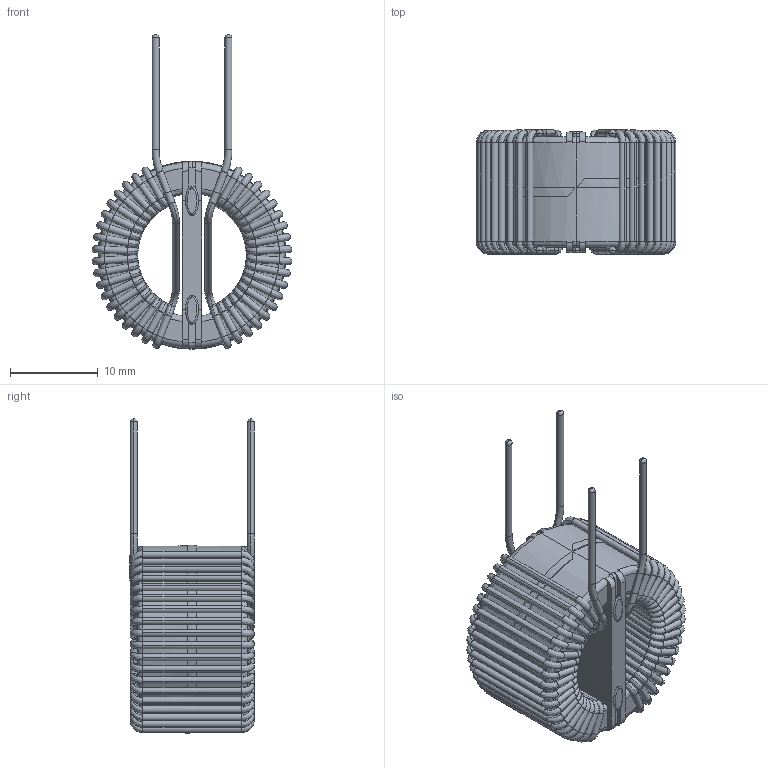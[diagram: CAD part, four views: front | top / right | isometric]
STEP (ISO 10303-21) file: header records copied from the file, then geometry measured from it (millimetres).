
FILE_DESCRIPTION (( 'STEP AP203' ), '1' );
FILE_NAME ('GN-V-502U-4A.STEP', '2020-08-03T12:46:24', ( 'Windows User' ), ( '' ), 'SwSTEP 2.0', 'SolidWorks 2015', '' );
FILE_SCHEMA (( 'CONFIG_CONTROL_DESIGN' ));
Length unit declared in the file: inch
Products named in the file (4): GN-V-502U-4A - FRAME; GN-V-502U-4A - CORE; GN-V-502U-4A; GN-V-502U-4A - COIL
Assembly tree (3 placements, depth 2):
  GN-V-502U-4A
    GN-V-502U-4A - CORE
    GN-V-502U-4A - COIL
    GN-V-502U-4A - FRAME
Bounding box: 22.74 x 14.18 x 35.78 mm (x, y, z)
Volume: 3639.4 mm3; surface area: 5994.9 mm2
Topology: 12 solids, 12 shells, 810 faces, 2186 edges, 1398 vertices
Faces by surface type: cylinder 342, torus 204, bspline 180, plane 84
Entity records: 38515 total; most frequent: CARTESIAN_POINT 17787, DIRECTION 4592, ORIENTED_EDGE 4372, EDGE_CURVE 2186, AXIS2_PLACEMENT_3D 2042, CIRCLE 1406, VERTEX_POINT 1398, EDGE_LOOP 810
